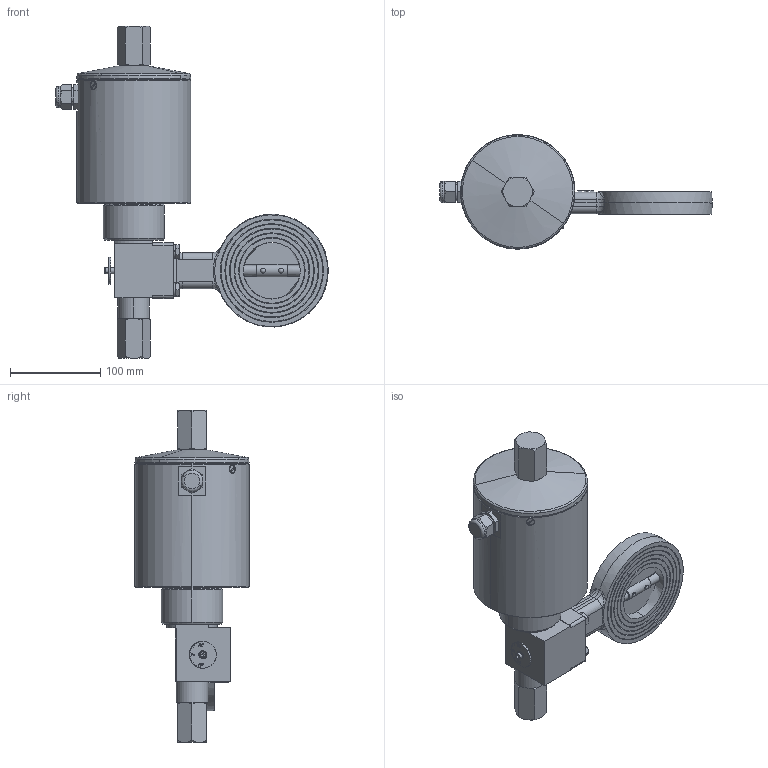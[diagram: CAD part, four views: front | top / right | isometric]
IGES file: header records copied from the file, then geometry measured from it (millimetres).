
Global section: file name: No Iges File Name specified; native system: AutoDesk Inventor R12.0; preprocessor: AutoDesk Inventor Iges Exporter R12.0; date: 20100526.085300; units: millimetre
Bounding box: 302.86 x 127 x 368.88 mm (x, y, z)
Volume: 2663505.4 mm3; surface area: 181062.1 mm2
Topology: 1 solids, 1 shells, 663 faces, 1715 edges, 1097 vertices
Faces by surface type: plane 373, bspline 89, cone 78, cylinder 74, revolution 35, torus 10, sphere 4
